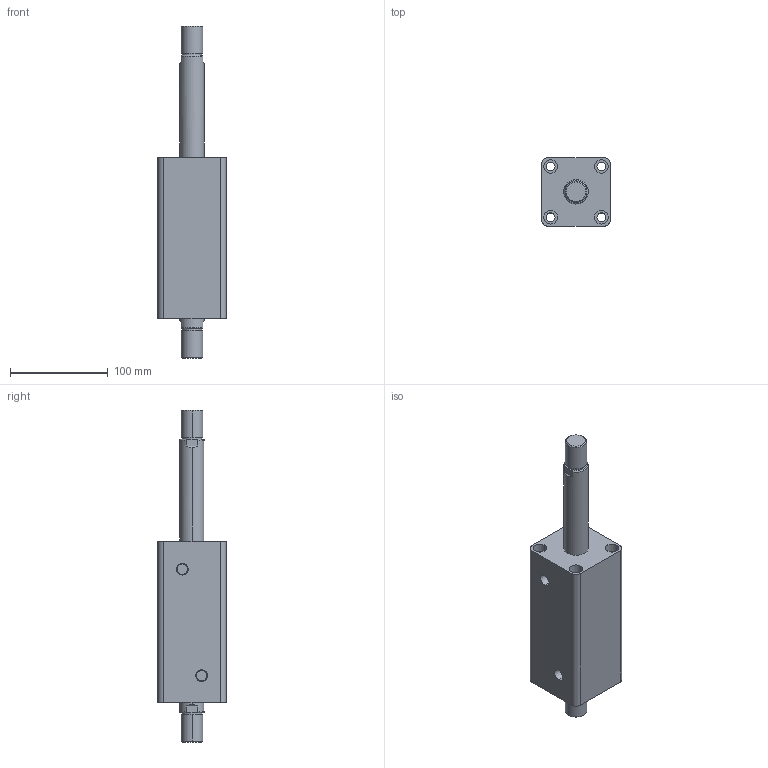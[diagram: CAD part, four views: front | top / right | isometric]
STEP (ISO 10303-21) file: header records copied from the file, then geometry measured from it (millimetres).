
FILE_DESCRIPTION (( 'STEP AP203' ), '1' );
FILE_NAME ('HTB-SW40-95W.STEP', '2019-10-07T09:13:41', ( '微软用户' ), ( '微软中国' ), 'SwSTEP 2.0', 'SolidWorks 2012', '' );
FILE_SCHEMA (( 'CONFIG_CONTROL_DESIGN' ));
Length unit declared in the file: millimetre
Products named in the file (3): HTB-SW40-95W; HTB-SW40-95W活塞杆; HTB-SW40-95掛极
Assembly tree (2 placements, depth 2):
  HTB-SW40-95W
    HTB-SW40-95掛极
    HTB-SW40-95W活塞杆
Bounding box: 70 x 70 x 340 mm (x, y, z)
Volume: 758662.9 mm3; surface area: 122387.6 mm2
Topology: 2 solids, 2 shells, 108 faces, 240 edges, 156 vertices
Faces by surface type: cylinder 52, plane 36, torus 12, cone 8
Entity records: 3449 total; most frequent: CARTESIAN_POINT 629, DIRECTION 586, ORIENTED_EDGE 480, AXIS2_PLACEMENT_3D 249, EDGE_CURVE 240, VERTEX_POINT 156, EDGE_LOOP 138, CIRCLE 136
